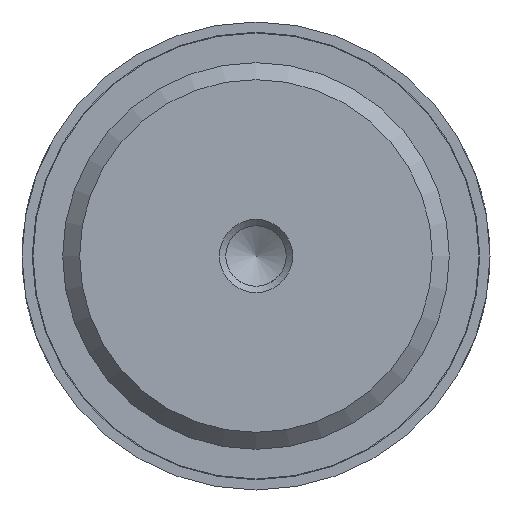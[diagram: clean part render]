
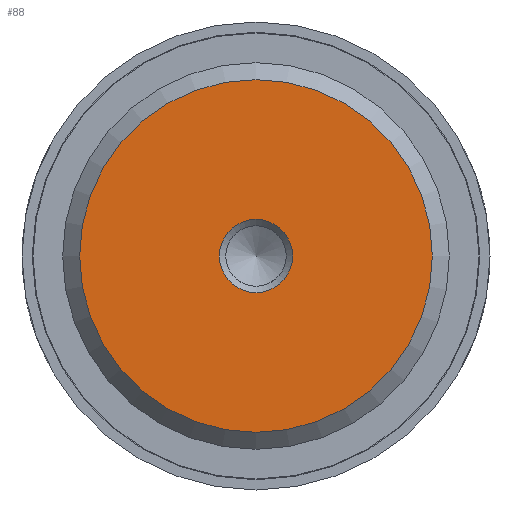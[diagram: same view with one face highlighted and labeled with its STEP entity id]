
A CAD part, front view. The second image highlights one B-rep face of the part: STEP entity #88.
In plain terms, the highlighted planar face has unit normal (0, -1, 0).
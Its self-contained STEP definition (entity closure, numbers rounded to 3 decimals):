
#88 = ADVANCED_FACE( '', ( #146, #147 ), #148, .F. );
#146 = FACE_BOUND( '', #237, .T. );
#147 = FACE_OUTER_BOUND( '', #238, .T. );
#148 = PLANE( '', #239 );
#237 = EDGE_LOOP( '', ( #372 ) );
#238 = EDGE_LOOP( '', ( #373 ) );
#239 = AXIS2_PLACEMENT_3D( '', #374, #375, #376 );
#372 = ORIENTED_EDGE( '', *, *, #524, .F. );
#373 = ORIENTED_EDGE( '', *, *, #525, .T. );
#374 = CARTESIAN_POINT( '', ( 12.059, 0., 0. ) );
#375 = DIRECTION( '', ( 0., 1., 0. ) );
#376 = DIRECTION( '', ( 0., 0., 1. ) );
#524 = EDGE_CURVE( '', #600, #600, #601, .T. );
#525 = EDGE_CURVE( '', #602, #602, #603, .T. );
#600 = VERTEX_POINT( '', #858 );
#601 = CIRCLE( '', #859, 2.5 );
#602 = VERTEX_POINT( '', #860 );
#603 = CIRCLE( '', #861, 12.059 );
#858 = CARTESIAN_POINT( '', ( 2.5, 0., 0. ) );
#859 = AXIS2_PLACEMENT_3D( '', #1005, #1006, #1007 );
#860 = CARTESIAN_POINT( '', ( 0., 0., -12.059 ) );
#861 = AXIS2_PLACEMENT_3D( '', #1008, #1009, #1010 );
#1005 = CARTESIAN_POINT( '', ( 0., 0., 0. ) );
#1006 = DIRECTION( '', ( 0., -1., 0. ) );
#1007 = DIRECTION( '', ( 1., 0., 0. ) );
#1008 = CARTESIAN_POINT( '', ( 0., 0., 0. ) );
#1009 = DIRECTION( '', ( 0., -1., 0. ) );
#1010 = DIRECTION( '', ( 0., 0., -1. ) );
